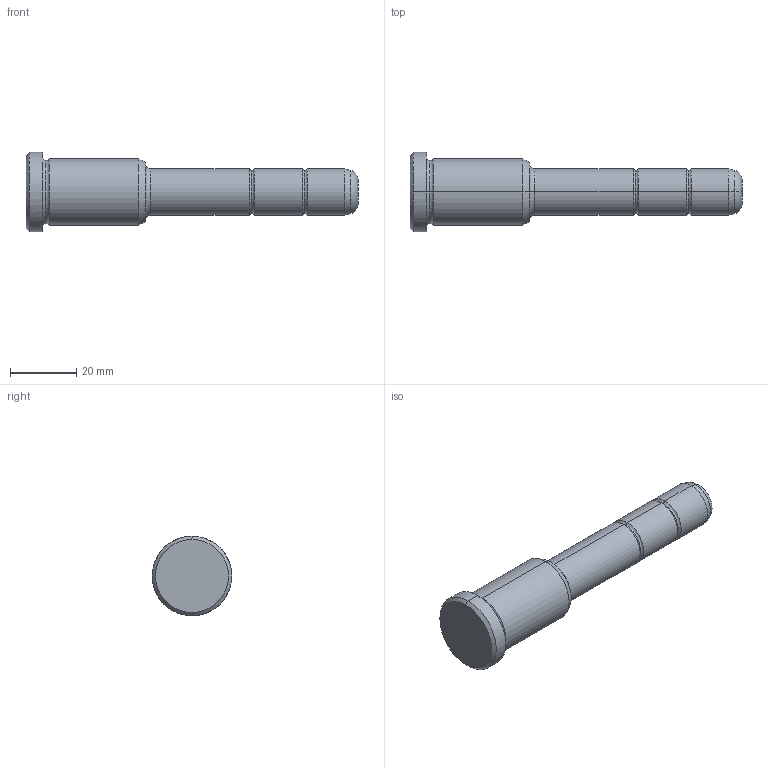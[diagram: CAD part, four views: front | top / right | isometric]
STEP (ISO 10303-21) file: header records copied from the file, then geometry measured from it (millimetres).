
FILE_DESCRIPTION(('CATIA V5 STEP Exchange'),'2;1');
FILE_NAME('C:\Users\Utente\Desktop\IO LAVORO\3D X SITO CF\X SITO\PLASTICA\351\351-14X36X100.stp','2021-08-18T10:45:16+00:00',('none'),('none'),'CATIA Version 5 Release 20 GA (IN-10)','CATIA V5 STEP AP203','none');
FILE_SCHEMA(('CONFIG_CONTROL_DESIGN'));
Length unit declared in the file: millimetre
Products named in the file (1): 351-14X36X100
Bounding box: 100 x 24 x 24 mm (x, y, z)
Volume: 21552.3 mm3; surface area: 5881.4 mm2
Topology: 1 solids, 1 shells, 36 faces, 102 edges, 70 vertices
Faces by surface type: torus 16, cylinder 10, cone 6, plane 4
Entity records: 1292 total; most frequent: CARTESIAN_POINT 321, ORIENTED_EDGE 204, DIRECTION 166, AXIS2_PLACEMENT_3D 115, EDGE_CURVE 102, CIRCLE 78, VERTEX_POINT 70, EDGE_LOOP 38
